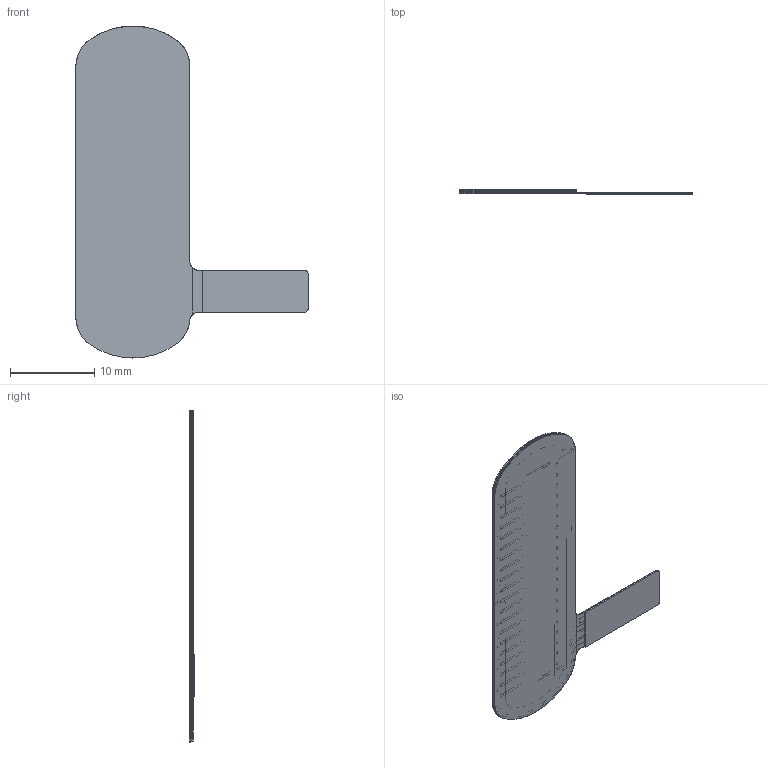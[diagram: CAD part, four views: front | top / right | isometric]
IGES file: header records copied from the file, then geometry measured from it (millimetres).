
Start section: SolidWorks IGES file using analytic representation for surfaces
Global section: file name: C:\Documents and Settings\jleonard\Desktop\34-00003-Strip Sensor.IGS; native system: SolidWorks 2008; preprocessor: SolidWorks 2008; author: jleonard; date: 110909.161711; units: millimetre
Bounding box: 27.5 x 0.62 x 39.3 mm (x, y, z)
Surface area: 6292.5 mm2 (no closed solid volume)
Topology: 0 solids, 0 shells, 1553 faces, 9456 edges, 9456 vertices
Faces by surface type: bspline 1450, revolution 103
